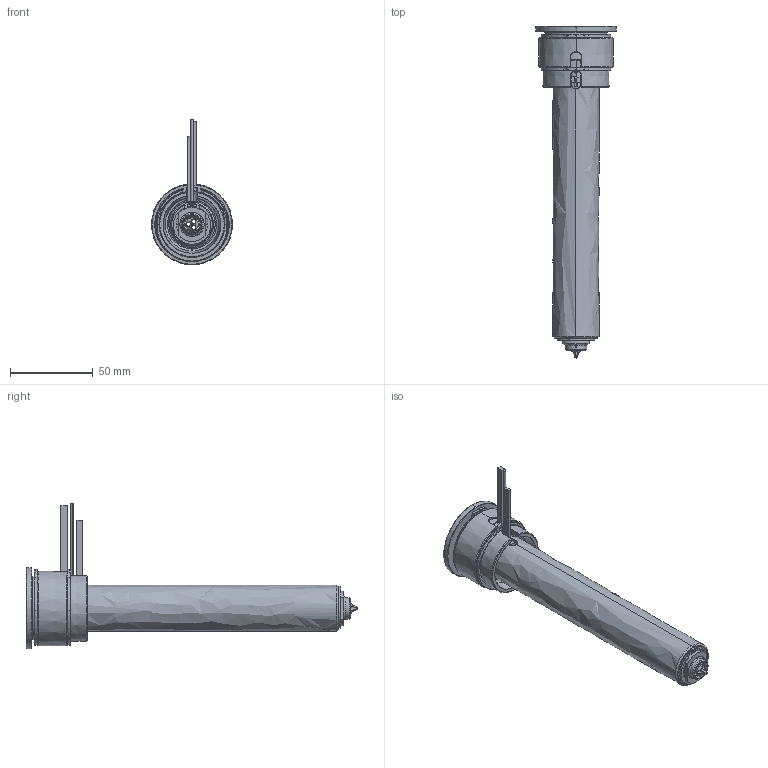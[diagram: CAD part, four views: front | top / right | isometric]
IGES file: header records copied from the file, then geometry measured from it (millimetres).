
Start section: SolidWorks IGES file using analytic representation for surfaces
Global section: file name: C:\Documents and Settings\ws-20\Desktop\TEM\UGEP4504-S-A-0 [Øf-1.31 ØC-09].IGS; native system: SolidWorks 2012; preprocessor: SolidWorks 2012; author: ws-20; date: 120424.085837; units: millimetre
Bounding box: 49 x 200.8 x 88.15 mm (x, y, z)
Surface area: 69842.6 mm2 (no closed solid volume)
Topology: 0 solids, 0 shells, 181 faces, 3437 edges, 3437 vertices
Faces by surface type: revolution 118, bspline 63
